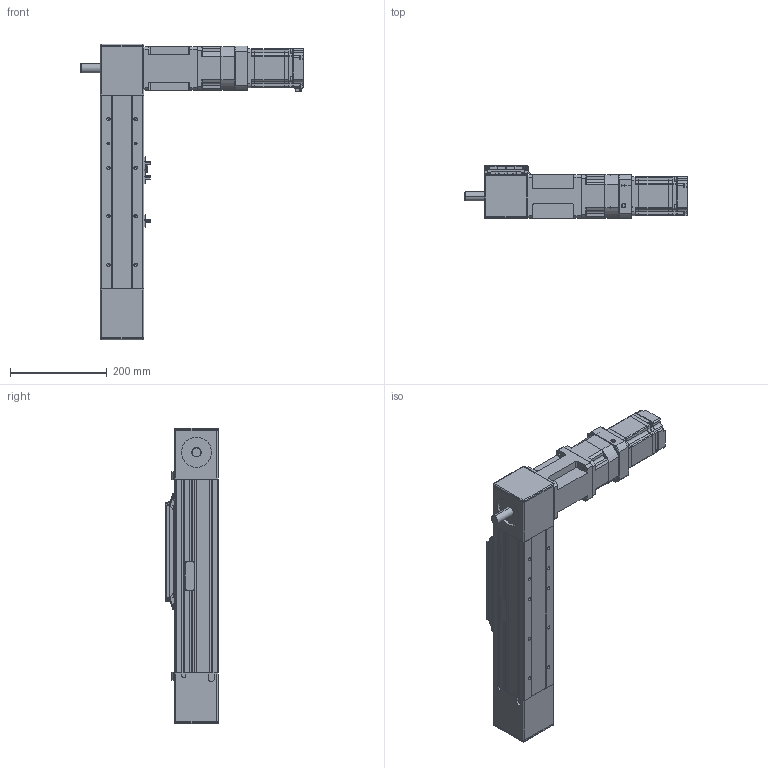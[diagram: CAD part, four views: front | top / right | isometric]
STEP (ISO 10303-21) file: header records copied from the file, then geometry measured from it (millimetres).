
FILE_DESCRIPTION (( 'STEP AP203' ), '1' );
FILE_NAME ('PCB090SDN-0000-ST100-75NR00-N-I3R.step', '2015-09-30T03:37:04', ( '' ), ( '' ), 'SwSTEP 2.0', 'SolidWorks 2012', '' );
FILE_SCHEMA (( 'CONFIG_CONTROL_DESIGN' ));
Length unit declared in the file: millimetre
Products named in the file (12): sgmjv_08a_a21; PGX90-H-1_3; MOTOR BRACKET 750W; 090_SLIDER_END_COVER_ANY; PCS90 SENSOR DOG; PCB090 Idler Pulley Block; EE_SX672; PCB090 Drive Pulley Block 1; PCB090 Carrier; PCB090 BASE FRAME-100ST; jc48c; PCB090SDN-0000-ST100-75NR00-N-I3R
Assembly tree (14 placements, depth 2):
  PCB090SDN-0000-ST100-75NR00-N-I3R
    PCB090 BASE FRAME-100ST
    PCB090 Carrier
    PCB090 Drive Pulley Block 1
    PCB090 Idler Pulley Block
    090_SLIDER_END_COVER_ANY  x2
    EE_SX672  x3
    PCS90 SENSOR DOG
    MOTOR BRACKET 750W
    sgmjv_08a_a21
    PGX90-H-1_3
    jc48c
Bounding box: 458.6 x 110.5 x 610 mm (x, y, z)
Volume: 5111701.3 mm3; surface area: 922120.2 mm2
Topology: 37 solids, 37 shells, 2633 faces, 6941 edges, 4453 vertices
Faces by surface type: plane 1378, cylinder 951, cone 177, bspline 107, torus 16, sphere 4
Entity records: 75887 total; most frequent: CARTESIAN_POINT 17856, ORIENTED_EDGE 11866, DIRECTION 11773, EDGE_CURVE 5933, AXIS2_PLACEMENT_3D 4019, VERTEX_POINT 3854, LINE 3735, VECTOR 3735
